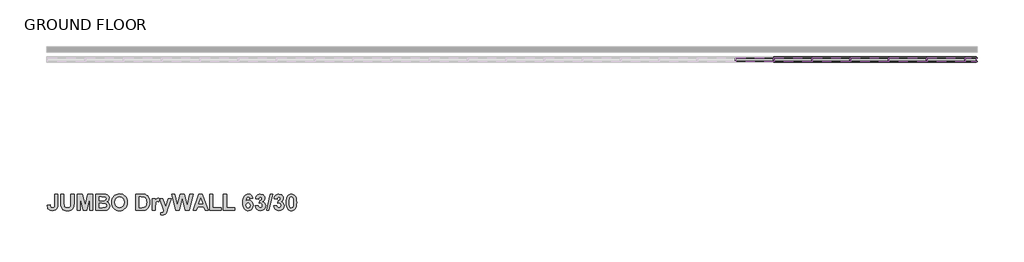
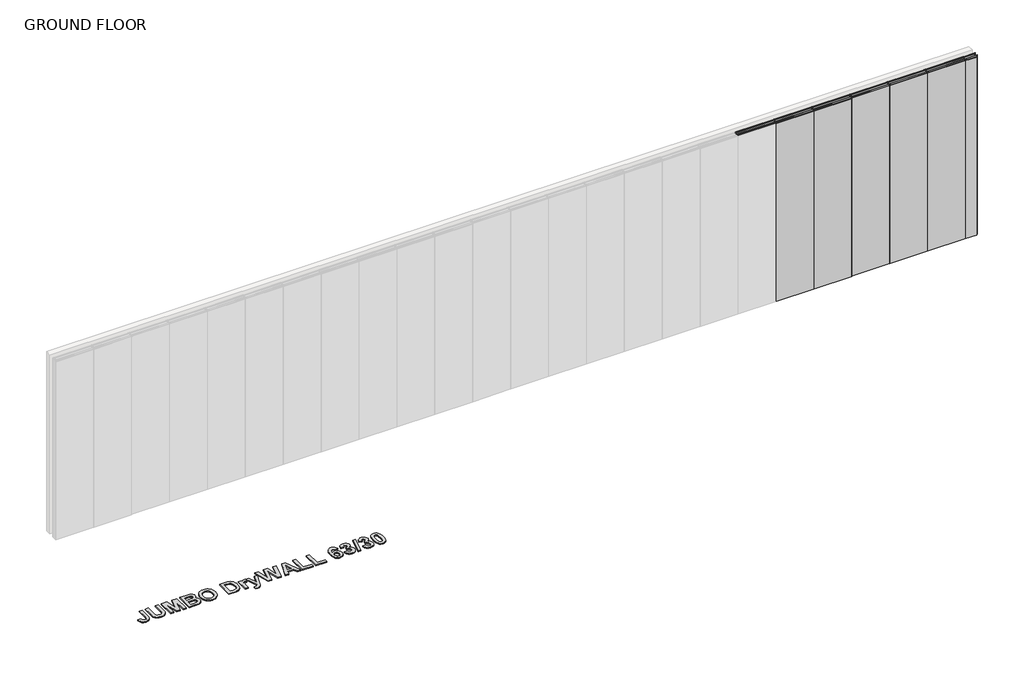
# One storey, part 2 of 2: 22 members, 6 plates, 1 proxy.
"""IFC4 building model written with IfcOpenShell, lengths in millimetres."""

from ifc_helpers import new_model, si_unit, origin, origin_with_axes, place, context, project, spatial, polyline, outline, extrude, transform, mapped, element, save
from components import rectangular_mullion_stud_mullion_63mm_b2ef130e, rectangular_mullion_stud_mullion_63mm_af775e70, rectangular_mullion_stud_mullion_63mm_c22ba0a2, rectangular_mullion_stud_mullion_63mm_ab3eab4e, rectangular_mullion_stud_mullion_63mm_06861ceb, rectangular_mullion_stud_mullion_63mm_08592bac, plate_2_layer_drywall_panels_2_layer_12mm_drywall_panels_e6e5b326, plate_2_layer_drywall_panels_2_layer_12mm_drywall_panels_b7f979b4

model = new_model("IFC4")

# Units and contexts
model_context = context("Model", 3, world=origin())
ifc_project = project(units=[si_unit("LENGTHUNIT", "METRE", prefix="MILLI")], contexts=[model_context])

# Site, building, storey
site = spatial("IfcSite", under=ifc_project)
building = spatial("IfcBuilding", under=site)
storey = spatial("IfcBuildingStorey", under=building, Name="GROUND FLOOR", Elevation=0.0)

# Proxy
placement = place(None, origin())
element("IfcBuildingElementProxy", 1, Name="600mm Arial", ObjectType="600mm Arial", at=placement, inside=storey, context=model_context, shape_type="SweptSolid", body=[
    extrude(outline(polyline([(61762.9500241, -15369.743976), (61811.5338051, -15369.743976), (61811.5338051, -15530.994051), (61810.1104521, -15558.9866592), (61805.8403932, -15579.7043522), (61795.149431, -15599.7261838), (61778.2589759, -15615.3830664), (61755.0741377, -15625.4888724), (61725.5000263, -15628.8574744), (61691.5293357, -15623.4566406), (61677.8651473, -15616.7055985), (61666.4150635, -15607.2541395), (61657.3530497, -15595.1892463), (61650.8530712, -15580.5979016), (61645.5392201, -15543.8358577), (61694.1230011, -15539.7872093), (61696.3529207, -15558.417318), (61701.1448757, -15570.6581534), (61712.5633294, -15580.9062947), (61728.726293, -15584.3223418), (61744.7073837, -15581.8710117), (61755.200658, -15574.5170215), (61761.0126826, -15559.4611102), (61762.9500241, -15533.9040171), (61762.9500241, -15369.743976)])), origin_with_axes(), (0.0, 0.0, 1.0), 15.0),
    extrude(outline(polyline([(61860.117586, -15369.743976), (61908.701367, -15369.743976), (61908.701367, -15507.3347619), (61910.7889513, -15549.8455702), (61916.8777389, -15563.8814119), (61927.9324469, -15574.8649522), (61943.9530752, -15581.9579944), (61964.9396238, -15584.3223418), (61985.9024499, -15582.0924222), (62000.9662687, -15575.4026633), (62010.6687913, -15565.4629151), (62015.547729, -15553.4830277), (62018.0148741, -15510.307988), (62018.0148741, -15369.743976), (62066.598655, -15369.743976), (62066.598655, -15503.539154), (62062.3602262, -15568.3807887), (62056.3346987, -15585.8326775), (62046.7349738, -15600.3587851), (62033.4266236, -15612.085632), (62016.2752205, -15621.1397383), (61994.2844173, -15626.9280404), (61966.457867, -15628.8574744), (61933.8630842, -15626.754075), (61910.2196101, -15620.4438769), (61893.0602995, -15610.7650768), (61879.9180071, -15598.5558714), (61870.682028, -15584.7493477), (61865.2416567, -15570.2785926), (61861.3986037, -15543.1716263), (61860.117586, -15505.6267383), (61860.117586, -15369.743976)])), origin_with_axes(), (0.0, 0.0, 1.0), 15.0),
    extrude(outline(polyline([(62115.182436, -15624.808826), (62115.182436, -15369.743976), (62198.432769, -15369.743976), (62238.6662126, -15543.7093374), (62278.8996562, -15369.743976), (62362.1499892, -15369.743976), (62362.1499892, -15624.808826), (62313.5662082, -15624.808826), (62311.541884, -15424.0211687), (62267.1332717, -15624.808826), (62210.2624136, -15624.808826), (62165.7905412, -15424.0211687), (62163.7662169, -15624.808826), (62115.182436, -15624.808826)])), origin_with_axes(), (0.0, 0.0, 1.0), 15.0),
    extrude(outline(polyline([(62410.7337701, -15369.743976), (62515.4292877, -15369.743976), (62561.7673339, -15372.2743812), (62589.0957107, -15382.8704532), (62600.1425112, -15392.2645828), (62609.1808025, -15404.3156378), (62615.20633, -15418.5096298), (62617.2148391, -15434.3325702), (62614.8188617, -15451.570956), (62607.6309292, -15467.3543588), (62596.3310883, -15480.5282812), (62581.5993851, -15489.9382257), (62600.2294939, -15499.0793147), (62613.9885724, -15512.9649136), (62622.4812451, -15530.6619353), (62625.312136, -15551.2372931), (62623.2799042, -15568.3254361), (62617.1832091, -15584.9233131), (62607.5676691, -15599.6312936), (62594.9789029, -15611.0497474), (62579.2666678, -15618.9493563), (62560.2807208, -15623.1008024), (62497.9062312, -15624.808826), (62410.7337701, -15624.808826), (62410.7337701, -15369.743976)]), holes=[polyline([(62459.3175511, -15414.2791085), (62459.3175511, -15470.9601863), (62496.3879881, -15470.9601863), (62537.5070735, -15470.1378046), (62550.4516779, -15467.1803934), (62560.3123509, -15461.3446463), (62566.5513814, -15452.9152338), (62568.6310582, -15442.1768265), (62566.836052, -15431.9049626), (62561.4510333, -15423.7364982), (62552.5392623, -15418.0193638), (62540.163999, -15415.1014902), (62491.8332586, -15414.2791085), (62459.3175511, -15414.2791085)]), polyline([(62459.3175511, -15515.4953188), (62459.3175511, -15580.2736934), (62510.6847778, -15580.2736934), (62548.7673769, -15578.7554503), (62560.0118653, -15575.3631257), (62568.9473589, -15569.1082802), (62574.783106, -15560.117434), (62576.728355, -15548.5171074), (62575.2259269, -15538.4587465), (62570.7186425, -15530.045149), (62553.3853665, -15518.974626), (62504.1689843, -15515.4953188), (62459.3175511, -15515.4953188)])]), origin_with_axes(), (0.0, 0.0, 1.0), 15.0),
    extrude(outline(polyline([(62657.7013233, -15498.8579042), (62660.5638442, -15463.0842999), (62669.1514071, -15433.5734486), (62679.2493055, -15415.1410278), (62692.4627655, -15398.6854861), (62707.9377752, -15385.2189856), (62724.8203227, -15375.7536884), (62750.0294851, -15368.2099178), (62778.844475, -15365.6953275), (62805.1369671, -15367.8758252), (62828.6618285, -15374.4173182), (62849.4190591, -15385.3198065), (62867.408659, -15400.58329), (62881.9387205, -15419.7293642), (62892.3173358, -15442.2796242), (62898.544505, -15468.23407), (62900.620228, -15497.5927016), (62898.56032, -15526.7516685), (62892.3805959, -15552.5499408), (62882.0810558, -15574.9875187), (62867.6616995, -15594.0644021), (62849.7907124, -15609.2863712), (62829.1362795, -15620.1592063), (62805.6984008, -15626.6829073), (62779.4770763, -15628.8574744), (62752.9789887, -15626.6927917), (62729.3434221, -15620.1987439), (62708.5703765, -15609.3753308), (62690.6598518, -15594.2225524), (62676.2404955, -15575.2741661), (62665.9409554, -15553.0639294), (62659.7612313, -15527.5918421), (62657.7013233, -15498.8579042)]), holes=[polyline([(62706.2851042, -15497.0866206), (62711.4487125, -15534.837104), (62717.9032227, -15549.8099864), (62726.9395371, -15562.1812958), (62750.3853234, -15578.7870803), (62779.4138162, -15584.3223418), (62808.3790489, -15578.8266179), (62831.6350547, -15562.3394461), (62840.5606639, -15549.9740673), (62846.936099, -15534.8608266), (62852.0364471, -15496.3907591), (62847.0705268, -15458.4979404), (62840.8631264, -15443.6792546), (62832.1727658, -15431.6123845), (62809.0511878, -15415.5759412), (62779.4138162, -15410.2304601), (62749.7131845, -15415.6392013), (62726.401826, -15431.865425), (62717.6007602, -15444.0548616), (62711.3142847, -15458.9882064), (62706.2851042, -15497.0866206)])]), origin_with_axes(), (0.0, 0.0, 1.0), 15.0),
    extrude(outline(polyline([(63038.2742741, -15369.743976), (63132.7216503, -15369.743976), (63160.8724088, -15370.9617335), (63181.4319515, -15374.6150061), (63202.339425, -15383.8114477), (63220.0206317, -15398.1161449), (63234.1671786, -15416.8727739), (63244.4706725, -15439.4250107), (63250.7571481, -15466.729665), (63252.8526399, -15499.7435461), (63250.8915758, -15529.0329869), (63245.0083836, -15554.0207389), (63233.3368894, -15579.1982712), (63217.5534866, -15599.0619525), (63201.7700838, -15610.6701866), (63181.2421711, -15619.4317148), (63161.2677846, -15623.4645482), (63135.5050961, -15624.808826), (63038.2742741, -15624.808826), (63038.2742741, -15369.743976)]), holes=[polyline([(63086.858055, -15414.2791085), (63086.858055, -15580.2736934), (63128.230181, -15580.2736934), (63161.7580506, -15577.8698084), (63184.1205071, -15567.4635168), (63192.1940814, -15557.7293641), (63198.6387073, -15543.2665165), (63202.861321, -15523.3712052), (63204.268859, -15497.3396611), (63202.861321, -15471.6718628), (63198.6387073, -15452.7412684), (63191.8935957, -15438.8872996), (63182.9185646, -15428.4493779), (63171.4605733, -15421.1428328), (63157.2665813, -15416.6829935), (63111.7825468, -15414.2791085), (63086.858055, -15414.2791085)])]), origin_with_axes(), (0.0, 0.0, 1.0), 15.0),
    extrude(outline(polyline([(63341.922905, -15624.808826), (63293.339124, -15624.808826), (63293.339124, -15438.570999), (63341.922905, -15438.570999), (63341.922905, -15464.5076529), (63361.3437653, -15440.3106526), (63380.9544061, -15434.5223506), (63396.1210226, -15437.0843859), (63410.749928, -15444.7704919), (63396.5796586, -15491.0136479), (63384.8765342, -15485.0830106), (63374.0590518, -15483.1061315), (63356.9471862, -15488.641393), (63350.7002482, -15496.3986666), (63345.9399233, -15508.5999645), (63341.922905, -15569.0766501), (63341.922905, -15624.808826)])), origin_with_axes(), (0.0, 0.0, 1.0), 15.0),
    extrude(outline(polyline([(63410.749928, -15438.570999), (63459.333709, -15438.570999), (63501.8445173, -15570.4051129), (63544.3553256, -15438.570999), (63592.9391066, -15438.570999), (63529.9320156, -15617.0278298), (63518.2288913, -15650.1761387), (63506.6839173, -15673.7721677), (63494.0635211, -15686.9935352), (63476.5088346, -15694.8694215), (63453.0076958, -15697.6844974), (63426.9445217, -15694.9010516), (63422.8958732, -15658.9060368), (63442.1902133, -15661.2466617), (63455.9571994, -15658.6767188), (63465.628092, -15650.9668903), (63477.2995863, -15624.808826), (63410.749928, -15438.570999)])), origin_with_axes(), (0.0, 0.0, 1.0), 15.0),
    extrude(outline(polyline([(64171.8958296, -15624.808826), (64120.8449035, -15624.808826), (64100.8547019, -15568.1277482), (64004.5095218, -15568.1277482), (63984.7723607, -15624.808826), (63933.0255732, -15624.808826), (64026.1444867, -15369.743976), (64077.8912742, -15369.743976), (64171.8958296, -15624.808826)]), holes=[polyline([(64085.2927096, -15523.5926156), (64052.4607014, -15430.4737021), (64020.0715141, -15523.5926156), (64085.2927096, -15523.5926156)])]), origin_with_axes(), (0.0, 0.0, 1.0), 15.0),
    extrude(outline(polyline([(63661.1967884, -15624.808826), (63596.987755, -15369.743976), (63646.8367386, -15369.743976), (63688.0823443, -15544.9745401), (63732.4276964, -15369.743976), (63797.7754122, -15369.743976), (63841.9309839, -15547.8845061), (63883.1765896, -15369.743976), (63933.0255732, -15369.743976), (63869.7654418, -15624.808826), (63812.2619823, -15624.808826), (63765.0066641, -15434.1427898), (63716.8024439, -15624.808826), (63661.1967884, -15624.808826)])), origin_with_axes(), (0.0, 0.0, 1.0), 15.0),
    extrude(outline(polyline([(64196.18772, -15624.808826), (64196.18772, -15369.743976), (64244.771501, -15369.743976), (64244.771501, -15580.2736934), (64374.3282502, -15580.2736934), (64374.3282502, -15624.808826), (64196.18772, -15624.808826)])), origin_with_axes(), (0.0, 0.0, 1.0), 15.0),
    extrude(outline(polyline([(64410.7660859, -15624.808826), (64410.7660859, -15369.743976), (64459.3498668, -15369.743976), (64459.3498668, -15580.2736934), (64588.906616, -15580.2736934), (64588.906616, -15624.808826), (64410.7660859, -15624.808826)])), origin_with_axes(), (0.0, 0.0, 1.0), 15.0),
    extrude(outline(polyline([(64872.3120049, -15437.4323166), (64823.728224, -15442.6196474), (64820.7549978, -15430.0229737), (64815.1248461, -15421.2060929), (64807.1224395, -15416.0108546), (64797.0324485, -15414.2791085), (64783.4315202, -15417.639803), (64772.1079567, -15427.7218864), (64763.8050645, -15448.5581922), (64759.26615, -15484.1815537), (64779.2879816, -15468.1925555), (64803.6747623, -15462.8628894), (64831.5013126, -15468.5563013), (64855.010359, -15485.6365368), (64871.0230797, -15511.715526), (64876.3606533, -15544.4051989), (64870.904467, -15578.8424329), (64864.0842341, -15593.232136), (64854.535908, -15605.7358963), (64842.8446449, -15615.8515867), (64829.5956012, -15623.0770799), (64798.4241714, -15628.8574744), (64780.8932075, -15626.9913005), (64764.9911919, -15621.3927789), (64750.7181248, -15612.0619095), (64738.074006, -15598.9986923), (64727.723067, -15581.6851851), (64720.3295391, -15559.6034455), (64715.8934224, -15532.7534734), (64714.4147168, -15501.135269), (64715.9586594, -15468.6828215), (64720.5904872, -15441.1014042), (64728.3102001, -15418.391017), (64739.1177982, -15400.55166), (64752.3925414, -15387.0732982), (64767.5136897, -15377.445897), (64784.4812431, -15371.6694562), (64803.2952015, -15369.743976), (64828.6150691, -15374.077295), (64849.1587968, -15387.077252), (64864.0249277, -15408.3326561), (64872.3120049, -15437.4323166)]), holes=[polyline([(64762.9984978, -15543.3297766), (64765.6237932, -15560.7500353), (64773.4996796, -15573.6630097), (64784.744168, -15581.6575088), (64797.4752694, -15584.3223418), (64809.3681741, -15582.1398673), (64819.1102344, -15575.5924437), (64825.6102129, -15564.0632847), (64827.7768724, -15546.9356041), (64825.444155, -15529.1832298), (64818.446003, -15516.9186718), (64807.9527287, -15509.7781844), (64795.1346446, -15507.398022), (64782.6961212, -15509.6753867), (64772.3293672, -15516.5074809), (64765.3312151, -15527.7677843), (64762.9984978, -15543.3297766)])]), origin_with_axes(), (0.0, 0.0, 1.0), 15.0),
    extrude(outline(polyline([(64908.7498406, -15553.5146578), (64957.3336216, -15547.8845061), (64961.0817844, -15563.5097586), (64968.2776243, -15574.9598424), (64978.1303898, -15581.981717), (64989.8493292, -15584.3223418), (65002.4222803, -15581.6416938), (65012.8127569, -15573.5997495), (65019.7871864, -15561.0188909), (65022.1119962, -15544.7214995), (65019.9848743, -15529.3018425), (65013.6035085, -15517.4563829), (65004.1540264, -15509.9126122), (64992.8225553, -15507.398022), (64973.5282152, -15511.0038495), (64977.766644, -15470.9601863), (64991.5968903, -15469.2205327), (65001.7106038, -15462.9894097), (65007.9021892, -15453.1208292), (65009.966051, -15440.4688029), (65008.4240852, -15429.7224881), (65003.7981881, -15421.3958733), (64996.6102557, -15416.0582997), (64987.382184, -15414.2791085), (64977.995962, -15416.3429703), (64970.0805381, -15422.5345557), (64964.3159586, -15432.6957143), (64961.38227, -15446.6682958), (64912.7984891, -15439.3933807), (64918.3574731, -15417.655618), (64926.1780069, -15400.7730704), (64936.9005991, -15387.8600961), (64951.1657588, -15378.0310532), (64968.1590116, -15371.8157453), (64987.0658834, -15369.743976), (65017.7154171, -15375.4848329), (65030.5018711, -15382.6609041), (65041.5961167, -15392.7074037), (65054.3114031, -15412.7292353), (65058.5498319, -15435.218212), (65056.2764209, -15451.1637189), (65049.456188, -15465.4091097), (65038.0891331, -15477.9543846), (65022.1752563, -15488.7995433), (65042.0389376, -15496.3512215), (65057.4744097, -15509.6437567), (65067.3904353, -15527.5068363), (65070.6957771, -15548.770148), (65064.8363075, -15579.5382944), (65047.2578984, -15605.4195957), (65034.821352, -15615.6736676), (65020.9495913, -15622.9980047), (64988.9004272, -15628.8574744), (64958.6383618, -15623.646421), (64934.0222632, -15608.0132611), (64916.8075999, -15583.9665036), (64908.7498406, -15553.5146578)])), origin_with_axes(), (0.0, 0.0, 1.0), 15.0),
    extrude(outline(polyline([(65086.0047289, -15624.808826), (65146.7344551, -15369.743976), (65184.0579327, -15369.743976), (65123.3282065, -15624.808826), (65086.0047289, -15624.808826)])), origin_with_axes(), (0.0, 0.0, 1.0), 15.0),
    extrude(outline(polyline([(65200.2525263, -15553.5146578), (65248.8363073, -15547.8845061), (65252.5844701, -15563.5097586), (65259.78031, -15574.9598424), (65269.6330755, -15581.981717), (65281.3520149, -15584.3223418), (65293.924966, -15581.6416938), (65304.3154426, -15573.5997495), (65311.2898721, -15561.0188909), (65313.6146819, -15544.7214995), (65311.48756, -15529.3018425), (65305.1061942, -15517.4563829), (65295.6567121, -15509.9126122), (65284.325241, -15507.398022), (65265.0309009, -15511.0038495), (65269.2693297, -15470.9601863), (65283.099576, -15469.2205327), (65293.2132895, -15462.9894097), (65299.4048749, -15453.1208292), (65301.4687367, -15440.4688029), (65299.9267709, -15429.7224881), (65295.3008738, -15421.3958733), (65288.1129414, -15416.0582997), (65278.8848697, -15414.2791085), (65269.4986477, -15416.3429703), (65261.5832238, -15422.5345557), (65255.8186443, -15432.6957143), (65252.8849557, -15446.6682958), (65204.3011748, -15439.3933807), (65209.8601588, -15417.655618), (65217.6806926, -15400.7730704), (65228.4032848, -15387.8600961), (65242.6684445, -15378.0310532), (65259.6616973, -15371.8157453), (65278.5685691, -15369.743976), (65309.2181028, -15375.4848329), (65322.0045568, -15382.6609041), (65333.0988024, -15392.7074037), (65345.8140888, -15412.7292353), (65350.0525176, -15435.218212), (65347.7791066, -15451.1637189), (65340.9588737, -15465.4091097), (65329.5918188, -15477.9543846), (65313.677942, -15488.7995433), (65333.5416233, -15496.3512215), (65348.9770954, -15509.6437567), (65358.893121, -15527.5068363), (65362.1984628, -15548.770148), (65356.3389932, -15579.5382944), (65338.7605841, -15605.4195957), (65326.3240377, -15615.6736676), (65312.452277, -15622.9980047), (65280.4031129, -15628.8574744), (65250.1410475, -15623.646421), (65225.5249489, -15608.0132611), (65208.3102856, -15583.9665036), (65200.2525263, -15553.5146578)])), origin_with_axes(), (0.0, 0.0, 1.0), 15.0),
    extrude(outline(polyline([(65475.5606184, -15369.743976), (65492.6922527, -15371.3887394), (65507.8391005, -15376.3230296), (65521.0011616, -15384.5468467), (65532.178436, -15396.0601906), (65542.8338144, -15414.1881721), (65550.444799, -15437.4481316), (65555.0113897, -15465.8400694), (65556.5335866, -15499.3639853), (65555.0034822, -15532.8562711), (65550.4131689, -15561.2798389), (65542.7626468, -15584.6346887), (65532.0519158, -15602.9208205), (65520.9299939, -15614.2681065), (65507.8074704, -15622.3733109), (65492.6843452, -15627.2364335), (65475.5606184, -15628.8574744), (65458.2530418, -15627.0782832), (65442.7048876, -15621.7407096), (65428.9161558, -15612.8447536), (65416.8868465, -15600.3904152), (65407.1309481, -15583.3694861), (65400.1624492, -15560.7737579), (65395.9813499, -15532.6032306), (65394.5876501, -15498.8579042), (65396.1177546, -15465.5316762), (65400.7080679, -15437.2267212), (65408.35859, -15413.9430391), (65419.069321, -15395.6806299), (65430.1912429, -15384.3333438), (65443.3137664, -15376.2281394), (65458.4368916, -15371.3650168), (65475.5606184, -15369.743976)]), holes=[polyline([(65475.5606184, -15414.2791085), (65459.3660247, -15419.6245896), (65453.0400116, -15427.0971926), (65448.3587619, -15438.8240395), (65444.4682638, -15462.9735947), (65443.1714311, -15499.3639853), (65444.3259285, -15535.2720174), (65447.7894207, -15557.8479768), (65453.016289, -15571.1009744), (65459.4609149, -15579.0401208), (65475.5606184, -15584.3223418), (65491.755212, -15578.9768607), (65498.0812252, -15571.5042577), (65502.7624749, -15559.7774108), (65506.652973, -15535.7543759), (65507.9498057, -15499.3639853), (65506.7953083, -15463.4954908), (65503.3318161, -15440.9116238), (65498.1049477, -15427.6190887), (65491.6603218, -15419.6245896), (65475.5606184, -15414.2791085)])]), origin_with_axes(), (0.0, 0.0, 1.0), 15.0),
])

# Members
rectangular_mullion_stud_mullion_63mm_shape = rectangular_mullion_stud_mullion_63mm_b2ef130e(model_context)
element("IfcMember", 2, ObjectType="Rectangular Mullion : Stud Mullion - 63mm", at=placement, inside=storey, context=model_context, shape_type="MappedRepresentation", body=[
    mapped(rectangular_mullion_stud_mullion_63mm_shape, transform((76216.5186508, -13259.4010443, 3000.0), x_axis=(0.0, 0.0, 1.0), y_axis=(0.0, -1.0, 0.0), z_axis=(1.0, 0.0, 0.0))),
])
rectangular_mullion_stud_mullion_63mm_2_shape = rectangular_mullion_stud_mullion_63mm_af775e70(model_context)
element("IfcMember", 3, ObjectType="Rectangular Mullion : Stud Mullion - 63mm", at=placement, inside=storey, context=model_context, shape_type="MappedRepresentation", body=[
    mapped(rectangular_mullion_stud_mullion_63mm_2_shape, transform((72454.5186511, -13259.4010443, 0.0), x_axis=(0.0, 0.0, -1.0), y_axis=(0.0, -1.0, 0.0), z_axis=(-1.0, 0.0, 0.0))),
])
element("IfcMember", 4, ObjectType="Rectangular Mullion : Stud Mullion - 63mm", at=placement, inside=storey, context=model_context, shape_type="MappedRepresentation", body=[
    mapped(rectangular_mullion_stud_mullion_63mm_2_shape, transform((73054.5186511, -13259.4010443, 0.0), x_axis=(0.0, 0.0, -1.0), y_axis=(0.0, -1.0, 0.0), z_axis=(-1.0, 0.0, 0.0))),
])
element("IfcMember", 5, ObjectType="Rectangular Mullion : Stud Mullion - 63mm", at=placement, inside=storey, context=model_context, shape_type="MappedRepresentation", body=[
    mapped(rectangular_mullion_stud_mullion_63mm_2_shape, transform((73654.5186511, -13259.4010443, 0.0), x_axis=(0.0, 0.0, -1.0), y_axis=(0.0, -1.0, 0.0), z_axis=(-1.0, 0.0, 0.0))),
])
element("IfcMember", 6, ObjectType="Rectangular Mullion : Stud Mullion - 63mm", at=placement, inside=storey, context=model_context, shape_type="MappedRepresentation", body=[
    mapped(rectangular_mullion_stud_mullion_63mm_2_shape, transform((74254.5186511, -13259.4010443, 0.0), x_axis=(0.0, 0.0, -1.0), y_axis=(0.0, -1.0, 0.0), z_axis=(-1.0, 0.0, 0.0))),
])
element("IfcMember", 7, ObjectType="Rectangular Mullion : Stud Mullion - 63mm", at=placement, inside=storey, context=model_context, shape_type="MappedRepresentation", body=[
    mapped(rectangular_mullion_stud_mullion_63mm_2_shape, transform((74854.5186511, -13259.4010443, 0.0), x_axis=(0.0, 0.0, -1.0), y_axis=(0.0, -1.0, 0.0), z_axis=(-1.0, 0.0, 0.0))),
])
element("IfcMember", 8, ObjectType="Rectangular Mullion : Stud Mullion - 63mm", at=placement, inside=storey, context=model_context, shape_type="MappedRepresentation", body=[
    mapped(rectangular_mullion_stud_mullion_63mm_2_shape, transform((75454.5186511, -13259.4010443, 0.0), x_axis=(0.0, 0.0, -1.0), y_axis=(0.0, -1.0, 0.0), z_axis=(-1.0, 0.0, 0.0))),
])
rectangular_mullion_stud_mullion_63mm_3_shape = rectangular_mullion_stud_mullion_63mm_c22ba0a2(model_context)
element("IfcMember", 9, ObjectType="Rectangular Mullion : Stud Mullion - 63mm", at=placement, inside=storey, context=model_context, shape_type="MappedRepresentation", body=[
    mapped(rectangular_mullion_stud_mullion_63mm_3_shape, transform((76235.5186508, -13259.4010443, 0.0), x_axis=(1.0, 0.0, 0.0), y_axis=(0.0, -1.0, 0.0), z_axis=(0.0, 0.0, -1.0))),
])
rectangular_mullion_stud_mullion_63mm_4_shape = rectangular_mullion_stud_mullion_63mm_ab3eab4e(model_context)
element("IfcMember", 10, ObjectType="Rectangular Mullion : Stud Mullion - 63mm", at=placement, inside=storey, context=model_context, shape_type="MappedRepresentation", body=[
    mapped(rectangular_mullion_stud_mullion_63mm_4_shape, transform((73035.5186511, -13259.4010443, 3000.0), x_axis=(0.0, 0.0, 1.0), y_axis=(0.0, -1.0, 0.0), z_axis=(1.0, 0.0, 0.0))),
])
element("IfcMember", 11, ObjectType="Rectangular Mullion : Stud Mullion - 63mm", at=placement, inside=storey, context=model_context, shape_type="MappedRepresentation", body=[
    mapped(rectangular_mullion_stud_mullion_63mm_4_shape, transform((73635.5186511, -13259.4010443, 3000.0), x_axis=(0.0, 0.0, 1.0), y_axis=(0.0, -1.0, 0.0), z_axis=(1.0, 0.0, 0.0))),
])
element("IfcMember", 12, ObjectType="Rectangular Mullion : Stud Mullion - 63mm", at=placement, inside=storey, context=model_context, shape_type="MappedRepresentation", body=[
    mapped(rectangular_mullion_stud_mullion_63mm_4_shape, transform((74235.5186511, -13259.4010443, 3000.0), x_axis=(0.0, 0.0, 1.0), y_axis=(0.0, -1.0, 0.0), z_axis=(1.0, 0.0, 0.0))),
])
element("IfcMember", 13, ObjectType="Rectangular Mullion : Stud Mullion - 63mm", at=placement, inside=storey, context=model_context, shape_type="MappedRepresentation", body=[
    mapped(rectangular_mullion_stud_mullion_63mm_4_shape, transform((74835.5186511, -13259.4010443, 3000.0), x_axis=(0.0, 0.0, 1.0), y_axis=(0.0, -1.0, 0.0), z_axis=(1.0, 0.0, 0.0))),
])
element("IfcMember", 14, ObjectType="Rectangular Mullion : Stud Mullion - 63mm", at=placement, inside=storey, context=model_context, shape_type="MappedRepresentation", body=[
    mapped(rectangular_mullion_stud_mullion_63mm_4_shape, transform((75435.5186511, -13259.4010443, 3000.0), x_axis=(0.0, 0.0, 1.0), y_axis=(0.0, -1.0, 0.0), z_axis=(1.0, 0.0, 0.0))),
])
element("IfcMember", 15, ObjectType="Rectangular Mullion : Stud Mullion - 63mm", at=placement, inside=storey, context=model_context, shape_type="MappedRepresentation", body=[
    mapped(rectangular_mullion_stud_mullion_63mm_4_shape, transform((76035.5186511, -13259.4010443, 3000.0), x_axis=(0.0, 0.0, 1.0), y_axis=(0.0, -1.0, 0.0), z_axis=(1.0, 0.0, 0.0))),
])
rectangular_mullion_stud_mullion_63mm_5_shape = rectangular_mullion_stud_mullion_63mm_06861ceb(model_context)
element("IfcMember", 16, ObjectType="Rectangular Mullion : Stud Mullion - 63mm", at=placement, inside=storey, context=model_context, shape_type="MappedRepresentation", body=[
    mapped(rectangular_mullion_stud_mullion_63mm_5_shape, transform((76054.5186511, -13259.4010443, 0.0), x_axis=(0.0, 0.0, -1.0), y_axis=(0.0, -1.0, 0.0), z_axis=(-1.0, 0.0, 0.0))),
])
rectangular_mullion_stud_mullion_63mm_6_shape = rectangular_mullion_stud_mullion_63mm_08592bac(model_context)
element("IfcMember", 17, ObjectType="Rectangular Mullion : Stud Mullion - 63mm", at=placement, inside=storey, context=model_context, shape_type="MappedRepresentation", body=[
    mapped(rectangular_mullion_stud_mullion_63mm_6_shape, transform((72445.0186511, -13259.4010443, 0.0), x_axis=(1.0, 0.0, 0.0), y_axis=(0.0, -1.0, 0.0), z_axis=(0.0, 0.0, -1.0))),
])
element("IfcMember", 18, ObjectType="Rectangular Mullion : Stud Mullion - 63mm", at=placement, inside=storey, context=model_context, shape_type="MappedRepresentation", body=[
    mapped(rectangular_mullion_stud_mullion_63mm_6_shape, transform((73045.0186511, -13259.4010443, 0.0), x_axis=(1.0, 0.0, 0.0), y_axis=(0.0, -1.0, 0.0), z_axis=(0.0, 0.0, -1.0))),
])
element("IfcMember", 19, ObjectType="Rectangular Mullion : Stud Mullion - 63mm", at=placement, inside=storey, context=model_context, shape_type="MappedRepresentation", body=[
    mapped(rectangular_mullion_stud_mullion_63mm_6_shape, transform((73645.0186511, -13259.4010443, 0.0), x_axis=(1.0, 0.0, 0.0), y_axis=(0.0, -1.0, 0.0), z_axis=(0.0, 0.0, -1.0))),
])
element("IfcMember", 20, ObjectType="Rectangular Mullion : Stud Mullion - 63mm", at=placement, inside=storey, context=model_context, shape_type="MappedRepresentation", body=[
    mapped(rectangular_mullion_stud_mullion_63mm_6_shape, transform((74245.0186511, -13259.4010443, 0.0), x_axis=(1.0, 0.0, 0.0), y_axis=(0.0, -1.0, 0.0), z_axis=(0.0, 0.0, -1.0))),
])
element("IfcMember", 21, ObjectType="Rectangular Mullion : Stud Mullion - 63mm", at=placement, inside=storey, context=model_context, shape_type="MappedRepresentation", body=[
    mapped(rectangular_mullion_stud_mullion_63mm_6_shape, transform((74845.0186511, -13259.4010443, 0.0), x_axis=(1.0, 0.0, 0.0), y_axis=(0.0, -1.0, 0.0), z_axis=(0.0, 0.0, -1.0))),
])
element("IfcMember", 22, ObjectType="Rectangular Mullion : Stud Mullion - 63mm", at=placement, inside=storey, context=model_context, shape_type="MappedRepresentation", body=[
    mapped(rectangular_mullion_stud_mullion_63mm_6_shape, transform((75445.0186511, -13259.4010443, 0.0), x_axis=(1.0, 0.0, 0.0), y_axis=(0.0, -1.0, 0.0), z_axis=(0.0, 0.0, -1.0))),
])
element("IfcMember", 23, ObjectType="Rectangular Mullion : Stud Mullion - 63mm", at=placement, inside=storey, context=model_context, shape_type="MappedRepresentation", body=[
    mapped(rectangular_mullion_stud_mullion_63mm_6_shape, transform((76045.0186511, -13259.4010443, 0.0), x_axis=(1.0, 0.0, 0.0), y_axis=(0.0, -1.0, 0.0), z_axis=(0.0, 0.0, -1.0))),
])

# Plates
plate_2_layer_drywall_panels_2_layer_12mm_drywall_panels_shape = plate_2_layer_drywall_panels_2_layer_12mm_drywall_panels_e6e5b326(model_context)
element("IfcPlate", 24, ObjectType="2 Layer - Drywall Panels : 2 Layer - 12mm Drywall Panels 89mm", at=placement, inside=storey, context=model_context, shape_type="MappedRepresentation", body=[
    mapped(plate_2_layer_drywall_panels_2_layer_12mm_drywall_panels_shape, transform((73336.3186511, -13259.4010443, 1.6), x_axis=(1.0, 0.0, 0.0), y_axis=(0.0, 1.0, 0.0), z_axis=(0.0, 0.0, 1.0))),
])
element("IfcPlate", 25, ObjectType="2 Layer - Drywall Panels : 2 Layer - 12mm Drywall Panels 89mm", at=placement, inside=storey, context=model_context, shape_type="MappedRepresentation", body=[
    mapped(plate_2_layer_drywall_panels_2_layer_12mm_drywall_panels_shape, transform((73936.3186511, -13259.4010443, 1.6), x_axis=(1.0, 0.0, 0.0), y_axis=(0.0, 1.0, 0.0), z_axis=(0.0, 0.0, 1.0))),
])
element("IfcPlate", 26, ObjectType="2 Layer - Drywall Panels : 2 Layer - 12mm Drywall Panels 89mm", at=placement, inside=storey, context=model_context, shape_type="MappedRepresentation", body=[
    mapped(plate_2_layer_drywall_panels_2_layer_12mm_drywall_panels_shape, transform((74536.3186511, -13259.4010443, 1.6), x_axis=(1.0, 0.0, 0.0), y_axis=(0.0, 1.0, 0.0), z_axis=(0.0, 0.0, 1.0))),
])
element("IfcPlate", 27, ObjectType="2 Layer - Drywall Panels : 2 Layer - 12mm Drywall Panels 89mm", at=placement, inside=storey, context=model_context, shape_type="MappedRepresentation", body=[
    mapped(plate_2_layer_drywall_panels_2_layer_12mm_drywall_panels_shape, transform((75136.3186511, -13259.4010443, 1.6), x_axis=(1.0, 0.0, 0.0), y_axis=(0.0, 1.0, 0.0), z_axis=(0.0, 0.0, 1.0))),
])
element("IfcPlate", 28, ObjectType="2 Layer - Drywall Panels : 2 Layer - 12mm Drywall Panels 89mm", at=placement, inside=storey, context=model_context, shape_type="MappedRepresentation", body=[
    mapped(plate_2_layer_drywall_panels_2_layer_12mm_drywall_panels_shape, transform((75736.3186511, -13259.4010443, 1.6), x_axis=(1.0, 0.0, 0.0), y_axis=(0.0, 1.0, 0.0), z_axis=(0.0, 0.0, 1.0))),
])
plate_2_layer_drywall_panels_2_layer_12mm_drywall_panels_2_shape = plate_2_layer_drywall_panels_2_layer_12mm_drywall_panels_b7f979b4(model_context)
element("IfcPlate", 29, ObjectType="2 Layer - Drywall Panels : 2 Layer - 12mm Drywall Panels 89mm", at=placement, inside=storey, context=model_context, shape_type="MappedRepresentation", body=[
    mapped(plate_2_layer_drywall_panels_2_layer_12mm_drywall_panels_2_shape, transform((76126.818651, -13259.4010443, 1.6), x_axis=(1.0, 0.0, 0.0), y_axis=(0.0, 1.0, 0.0), z_axis=(0.0, 0.0, 1.0))),
])

save(model, "model.ifc")
